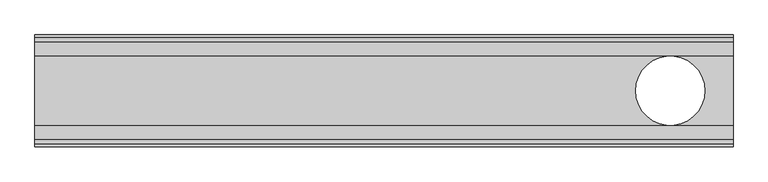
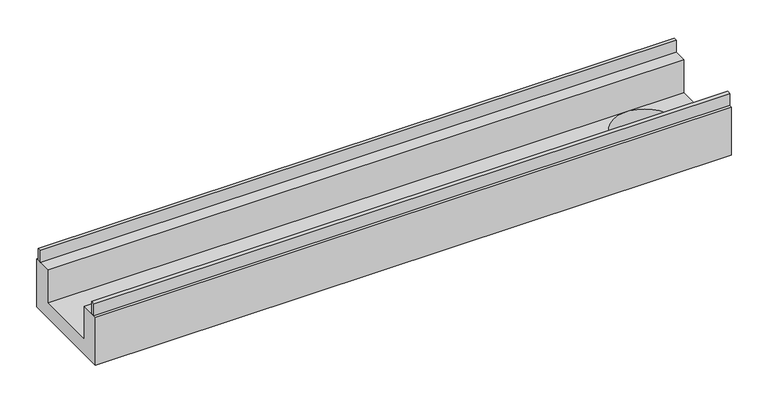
"""IFC4 building model written with IfcOpenShell, lengths in millimetres: sanitary terminal geometry, PF_ST_Slabdrain_H100SK_channels_USA_ACO : H100SK-10 Constant Depth Channel with Ductile iron edge rail."""

from ifc_helpers import new_model, si_unit, frame, origin, place, context, project, spatial, polyline, circle_curve, outline, extrude, source, transform, mapped, element, save
from ifc_brep_helpers import plane_surface, revolved_surface, advanced_brep


def sanitary_terminal_3a4a17e8(model_context):
    return source(origin(), model_context, "Body", "SolidModel", [
        advanced_brep(
        [(-605.6176554, 80.0, -20.0), (-605.6176554, 50.0, -20.0), (-605.6176554, 50.0, -75.0), (-605.6176554, -50.0, -75.0), (-605.6176554, -50.0, -20.0), (-605.6176554, -80.0, -20.0), (-605.6176554, -80.0, -100.0), (-605.6176554, 80.0, -100.0), (-1605.6176554, 80.0, -20.0), (-1605.6176554, 80.0, -100.0), (-1605.6176554, -80.0, -100.0), (-1605.6176554, -80.0, -20.0), (-1605.6176554, -49.9990295, -20.0), (-1605.6176554, -49.9990295, -75.0), (-1605.6176554, 49.9990295, -75.0), (-1605.6176554, 49.9990295, -20.0), (-745.1176554, 0.0, -100.0), (-646.1176554, 0.0, -100.0), (-646.1176554, 0.0, -75.0), (-745.1176554, 0.0, -75.0)],
        [
            (0, 1),
            (1, 2),
            (2, 3),
            (3, 4),
            (4, 5),
            (5, 6),
            (6, 7),
            (7, 0),
            (8, 9),
            (9, 10),
            (10, 11),
            (11, 12),
            (12, 13),
            (13, 14),
            (14, 15),
            (15, 8),
            (0, 8),
            (15, 1),
            (4, 12),
            (11, 5),
            (10, 6),
            (9, 7),
            (16, 17, circle_curve(frame((-695.6176554, 0.0, -100.0), z_axis=(0.0, 0.0, 1.0), x_axis=(1.0, 0.0, 0.0)), 49.5)),
            (17, 16, circle_curve(frame((-695.6176554, 0.0, -100.0), z_axis=(0.0, 0.0, 1.0), x_axis=(1.0, 0.0, 0.0)), 49.5)),
            (14, 2),
            (13, 3),
            (18, 19, circle_curve(frame((-695.6176554, 0.0, -75.0), z_axis=(0.0, 0.0, -1.0), x_axis=(1.0, 0.0, 0.0)), 49.5)),
            (19, 18, circle_curve(frame((-695.6176554, 0.0, -75.0), z_axis=(0.0, 0.0, -1.0), x_axis=(1.0, 0.0, 0.0)), 49.5)),
            (18, 17),
            (16, 19),
        ],
        [
            plane_surface(frame((-605.6176554, 0.0, -53.75), z_axis=(1.0, 0.0, 0.0), x_axis=(0.0, -1.0, 0.0))),
            plane_surface(frame((-1605.6176554, 0.0, -53.75), z_axis=(-1.0, 0.0, 0.0), x_axis=(0.0, -1.0, 0.0))),
            plane_surface(frame((-1605.6176554, 64.9995148, -20.0), z_axis=(0.0, 0.0, 1.0), x_axis=(0.0, -1.0, 0.0))),
            plane_surface(frame((-1605.6176554, -64.9995148, -20.0), z_axis=(0.0, 0.0, 1.0), x_axis=(0.0, -1.0, 0.0))),
            plane_surface(frame((-1605.6176554, -80.0, -60.0), z_axis=(0.0, -1.0, 0.0), x_axis=(0.0, 0.0, -1.0))),
            plane_surface(frame((-1605.6176554, 0.0, -100.0), z_axis=(0.0, 0.0, -1.0), x_axis=(0.0, 1.0, 0.0))),
            plane_surface(frame((-1605.6176554, 80.0, -60.0), z_axis=(0.0, 1.0, 0.0), x_axis=(0.0, 0.0, 1.0))),
            plane_surface(frame((-1605.6176554, 49.9990295, -47.5), z_axis=(9.704508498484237e-07, -0.9999999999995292, 0.0), x_axis=(0.0, 0.0, -1.0))),
            plane_surface(frame((-1605.6176554, 0.0, -75.0), z_axis=(0.0, 0.0, 1.0), x_axis=(0.0, -1.0, 0.0))),
            plane_surface(frame((-1605.6176554, -49.9990295, -47.5), z_axis=(9.704508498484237e-07, 0.9999999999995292, 0.0), x_axis=(0.0, 0.0, 1.0))),
            revolved_surface(polyline([(-646.1176554, 0.0, -100.0), (-646.1176554, 0.0, -75.0)]), (-695.6176554, 0.0, 0.0), (0.0, 0.0, -1.0)),
        ],
        [
            (0, [[1, 2, 3, 4, 5, 6, 7, 8]]),
            (1, [[9, 10, 11, 12, 13, 14, 15, 16]]),
            (2, [[-1, 17, -16, 18]]),
            (3, [[-5, 19, -12, 20]]),
            (4, [[-6, -20, -11, 21]]),
            (5, [[-7, -21, -10, 22], [23, 24]]),
            (6, [[-8, -22, -9, -17]]),
            (7, [[-2, -18, -15, 25]]),
            (8, [[-3, -25, -14, 26], [27, 28]]),
            (9, [[-4, -26, -13, -19]]),
            (10, [[29, -23, 30, -27]]),
            (10, [[-29, -28, -30, -24]]),
        ],
    ),
        extrude(outline(polyline([(-605.6176554, 76.0), (-605.6176554, 70.0), (-1605.6176554, 70.0), (-1605.6176554, 76.0), (-605.6176554, 76.0)])), frame((0.0, 0.0, -20.0), z_axis=(0.0, 0.0, 1.0), x_axis=(1.0, 0.0, 0.0)), (0.0, 0.0, 1.0), 20.0),
        extrude(outline(polyline([(-605.6176554, -70.0), (-605.6176554, -76.0), (-1605.6176554, -76.0), (-1605.6176554, -70.0), (-605.6176554, -70.0)])), frame((0.0, 0.0, -20.0), z_axis=(0.0, 0.0, 1.0), x_axis=(1.0, 0.0, 0.0)), (0.0, 0.0, 1.0), 20.0),
    ])


if __name__ == "__main__":
    model = new_model("IFC4")
    model_context = context("Model", 3, world=origin())
    ifc_project = project(units=[si_unit("LENGTHUNIT", "METRE", prefix="MILLI")], contexts=[model_context])
    site = spatial("IfcSite", under=ifc_project)
    building = spatial("IfcBuilding", under=site)
    placement = place(None, origin())
    sanitary_terminal_shape = sanitary_terminal_3a4a17e8(model_context)
    element("IfcSanitaryTerminal", 1, ObjectType="PF_ST_Slabdrain_H100SK_channels_USA_ACO : H100SK-10 Constant Depth Channel with Ductile iron edge rail", at=placement, inside=building, context=model_context, shape_type="MappedRepresentation", body=[
        mapped(sanitary_terminal_shape, transform((0.0, 0.0, 0.0), x_axis=(1.0, 0.0, 0.0), y_axis=(0.0, 1.0, 0.0), z_axis=(0.0, 0.0, 1.0))),
    ])
    save(model, "model.ifc")
